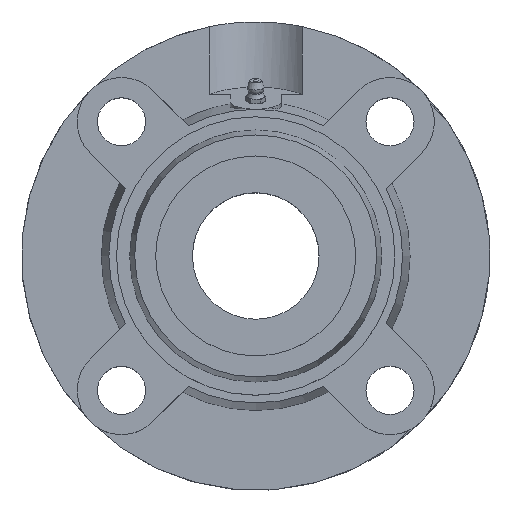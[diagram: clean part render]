
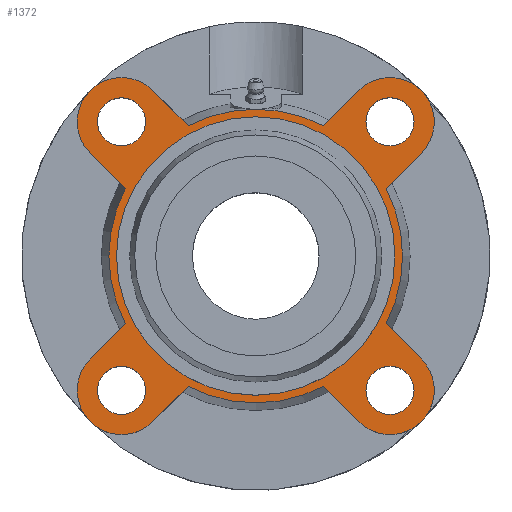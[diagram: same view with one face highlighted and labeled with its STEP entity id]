
A CAD part, top view. The second image highlights one B-rep face of the part: STEP entity #1372.
In plain terms, the highlighted planar face has unit normal (0, 0, 1).
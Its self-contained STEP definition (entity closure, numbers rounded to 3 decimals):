
#112=CARTESIAN_POINT('',(0.0,55.0,16.));
#113=VERTEX_POINT('',#112);
#114=CARTESIAN_POINT('',(0.0,0.,16.));
#115=DIRECTION('',(0.0,0.0,-1.0));
#116=DIRECTION('',(0.0,1.0,0.0));
#117=AXIS2_PLACEMENT_3D('',#114,#115,#116);
#118=CIRCLE('',#117,55.0);
#119=EDGE_CURVE('',#113,#113,#118,.T.);
#209=CARTESIAN_POINT('',(-43.533,-53.033,16.));
#210=VERTEX_POINT('',#209);
#211=CARTESIAN_POINT('',(-53.033,-53.033,16.));
#212=DIRECTION('',(0.0,0.0,-1.0));
#213=DIRECTION('',(1.0,0.0,0.0));
#214=AXIS2_PLACEMENT_3D('',#211,#212,#213);
#215=CIRCLE('',#214,9.5);
#216=EDGE_CURVE('',#210,#210,#215,.T.);
#237=CARTESIAN_POINT('',(-43.533,53.033,16.));
#238=VERTEX_POINT('',#237);
#239=CARTESIAN_POINT('',(-53.033,53.033,16.));
#240=DIRECTION('',(0.0,0.0,-1.0));
#241=DIRECTION('',(1.0,0.0,0.0));
#242=AXIS2_PLACEMENT_3D('',#239,#240,#241);
#243=CIRCLE('',#242,9.5);
#244=EDGE_CURVE('',#238,#238,#243,.T.);
#265=CARTESIAN_POINT('',(62.533,53.033,16.));
#266=VERTEX_POINT('',#265);
#267=CARTESIAN_POINT('',(53.033,53.033,16.));
#268=DIRECTION('',(0.0,0.0,-1.0));
#269=DIRECTION('',(1.0,0.0,0.0));
#270=AXIS2_PLACEMENT_3D('',#267,#268,#269);
#271=CIRCLE('',#270,9.5);
#272=EDGE_CURVE('',#266,#266,#271,.T.);
#293=CARTESIAN_POINT('',(62.533,-53.033,16.));
#294=VERTEX_POINT('',#293);
#295=CARTESIAN_POINT('',(53.033,-53.033,16.));
#296=DIRECTION('',(0.0,0.0,-1.0));
#297=DIRECTION('',(1.0,0.0,0.0));
#298=AXIS2_PLACEMENT_3D('',#295,#296,#297);
#299=CIRCLE('',#298,9.5);
#300=EDGE_CURVE('',#294,#294,#299,.T.);
#670=CARTESIAN_POINT('',(0.,58.,16.0));
#671=VERTEX_POINT('',#670);
#828=CARTESIAN_POINT('',(-26.726,51.475,16.));
#829=VERTEX_POINT('',#828);
#843=CARTESIAN_POINT('',(0.0,0.,16.));
#844=DIRECTION('',(0.0,0.0,1.0));
#845=DIRECTION('',(0.0,-1.0,0.0));
#846=AXIS2_PLACEMENT_3D('',#843,#844,#845);
#847=CIRCLE('',#846,58.);
#848=EDGE_CURVE('',#671,#829,#847,.T.);
#858=CARTESIAN_POINT('',(-26.726,-51.475,16.));
#859=VERTEX_POINT('',#858);
#875=CARTESIAN_POINT('',(-40.659,-65.407,16.));
#876=VERTEX_POINT('',#875);
#877=CARTESIAN_POINT('',(-26.726,-51.475,16.));
#878=DIRECTION('',(-0.707,-0.707,0.));
#879=VECTOR('',#878,19.703);
#880=LINE('',#877,#879);
#881=EDGE_CURVE('',#859,#876,#880,.T.);
#905=CARTESIAN_POINT('',(-51.475,26.726,16.));
#906=VERTEX_POINT('',#905);
#922=CARTESIAN_POINT('',(-65.407,40.659,16.));
#923=VERTEX_POINT('',#922);
#924=CARTESIAN_POINT('',(-51.475,26.726,16.));
#925=DIRECTION('',(-0.707,0.707,0.));
#926=VECTOR('',#925,19.703);
#927=LINE('',#924,#926);
#928=EDGE_CURVE('',#906,#923,#927,.T.);
#952=CARTESIAN_POINT('',(51.475,-26.726,16.0));
#953=VERTEX_POINT('',#952);
#969=CARTESIAN_POINT('',(65.407,-40.659,16.));
#970=VERTEX_POINT('',#969);
#971=CARTESIAN_POINT('',(51.475,-26.726,16.0));
#972=DIRECTION('',(0.707,-0.707,0.));
#973=VECTOR('',#972,19.703);
#974=LINE('',#971,#973);
#975=EDGE_CURVE('',#953,#970,#974,.T.);
#999=CARTESIAN_POINT('',(26.726,51.475,16.));
#1000=VERTEX_POINT('',#999);
#1014=CARTESIAN_POINT('',(40.659,65.407,16.));
#1015=VERTEX_POINT('',#1014);
#1016=CARTESIAN_POINT('',(26.726,51.475,16.));
#1017=DIRECTION('',(0.707,0.707,0.));
#1018=VECTOR('',#1017,19.703);
#1019=LINE('',#1016,#1018);
#1020=EDGE_CURVE('',#1000,#1015,#1019,.T.);
#1039=CARTESIAN_POINT('',(51.475,26.726,16.));
#1040=VERTEX_POINT('',#1039);
#1062=CARTESIAN_POINT('',(65.407,40.659,16.));
#1063=VERTEX_POINT('',#1062);
#1070=CARTESIAN_POINT('',(65.407,40.659,16.));
#1071=DIRECTION('',(-0.707,-0.707,0.));
#1072=VECTOR('',#1071,19.703);
#1073=LINE('',#1070,#1072);
#1074=EDGE_CURVE('',#1063,#1040,#1073,.T.);
#1084=CARTESIAN_POINT('',(-65.407,-40.659,16.));
#1085=VERTEX_POINT('',#1084);
#1086=CARTESIAN_POINT('',(-53.033,-53.033,16.));
#1087=DIRECTION('',(0.0,0.0,-1.0));
#1088=DIRECTION('',(-0.707,0.707,0.0));
#1089=AXIS2_PLACEMENT_3D('',#1086,#1087,#1088);
#1090=CIRCLE('',#1089,17.5);
#1091=EDGE_CURVE('',#876,#1085,#1090,.T.);
#1126=CARTESIAN_POINT('',(-51.475,-26.726,16.0));
#1127=VERTEX_POINT('',#1126);
#1148=CARTESIAN_POINT('',(-65.407,-40.659,16.));
#1149=DIRECTION('',(0.707,0.707,0.));
#1150=VECTOR('',#1149,19.703);
#1151=LINE('',#1148,#1150);
#1152=EDGE_CURVE('',#1085,#1127,#1151,.T.);
#1162=CARTESIAN_POINT('',(-40.659,65.407,16.));
#1163=VERTEX_POINT('',#1162);
#1164=CARTESIAN_POINT('',(-53.033,53.033,16.));
#1165=DIRECTION('',(0.0,0.0,-1.0));
#1166=DIRECTION('',(0.707,0.707,0.0));
#1167=AXIS2_PLACEMENT_3D('',#1164,#1165,#1166);
#1168=CIRCLE('',#1167,17.5);
#1169=EDGE_CURVE('',#923,#1163,#1168,.T.);
#1197=CARTESIAN_POINT('',(-40.659,65.407,16.));
#1198=DIRECTION('',(0.707,-0.707,0.));
#1199=VECTOR('',#1198,19.703);
#1200=LINE('',#1197,#1199);
#1201=EDGE_CURVE('',#1163,#829,#1200,.T.);
#1211=CARTESIAN_POINT('',(40.659,-65.407,16.));
#1212=VERTEX_POINT('',#1211);
#1213=CARTESIAN_POINT('',(53.033,-53.033,16.));
#1214=DIRECTION('',(0.0,0.0,-1.0));
#1215=DIRECTION('',(-0.707,-0.707,0.0));
#1216=AXIS2_PLACEMENT_3D('',#1213,#1214,#1215);
#1217=CIRCLE('',#1216,17.5);
#1218=EDGE_CURVE('',#970,#1212,#1217,.T.);
#1253=CARTESIAN_POINT('',(26.726,-51.475,16.));
#1254=VERTEX_POINT('',#1253);
#1275=CARTESIAN_POINT('',(40.659,-65.407,16.));
#1276=DIRECTION('',(-0.707,0.707,0.));
#1277=VECTOR('',#1276,19.703);
#1278=LINE('',#1275,#1277);
#1279=EDGE_CURVE('',#1212,#1254,#1278,.T.);
#1289=CARTESIAN_POINT('',(53.033,53.033,16.));
#1290=DIRECTION('',(0.0,0.0,-1.0));
#1291=DIRECTION('',(0.707,-0.707,0.0));
#1292=AXIS2_PLACEMENT_3D('',#1289,#1290,#1291);
#1293=CIRCLE('',#1292,17.5);
#1294=EDGE_CURVE('',#1015,#1063,#1293,.T.);
#1309=CARTESIAN_POINT('',(0.0,-29.,16.0));
#1310=DIRECTION('',(0.0,0.0,1.0));
#1311=DIRECTION('',(1.0,0.0,0.0));
#1312=AXIS2_PLACEMENT_3D('',#1309,#1310,#1311);
#1313=PLANE('',#1312);
#1314=CARTESIAN_POINT('',(0.0,0.,16.));
#1315=DIRECTION('',(0.0,0.0,1.0));
#1316=DIRECTION('',(0.0,-1.0,0.0));
#1317=AXIS2_PLACEMENT_3D('',#1314,#1315,#1316);
#1318=CIRCLE('',#1317,58.);
#1319=EDGE_CURVE('',#859,#1254,#1318,.T.);
#1320=ORIENTED_EDGE('',*,*,#1319,.T.);
#1321=ORIENTED_EDGE('',*,*,#1279,.F.);
#1322=ORIENTED_EDGE('',*,*,#1218,.F.);
#1323=ORIENTED_EDGE('',*,*,#975,.F.);
#1324=CARTESIAN_POINT('',(0.0,0.,16.));
#1325=DIRECTION('',(0.0,0.0,1.0));
#1326=DIRECTION('',(0.0,-1.0,0.0));
#1327=AXIS2_PLACEMENT_3D('',#1324,#1325,#1326);
#1328=CIRCLE('',#1327,58.);
#1329=EDGE_CURVE('',#953,#1040,#1328,.T.);
#1330=ORIENTED_EDGE('',*,*,#1329,.T.);
#1331=ORIENTED_EDGE('',*,*,#1074,.F.);
#1332=ORIENTED_EDGE('',*,*,#1294,.F.);
#1333=ORIENTED_EDGE('',*,*,#1020,.F.);
#1334=CARTESIAN_POINT('',(0.0,0.,16.));
#1335=DIRECTION('',(0.0,0.0,1.0));
#1336=DIRECTION('',(0.0,-1.0,0.0));
#1337=AXIS2_PLACEMENT_3D('',#1334,#1335,#1336);
#1338=CIRCLE('',#1337,58.);
#1339=EDGE_CURVE('',#1000,#671,#1338,.T.);
#1340=ORIENTED_EDGE('',*,*,#1339,.T.);
#1341=ORIENTED_EDGE('',*,*,#848,.T.);
#1342=ORIENTED_EDGE('',*,*,#1201,.F.);
#1343=ORIENTED_EDGE('',*,*,#1169,.F.);
#1344=ORIENTED_EDGE('',*,*,#928,.F.);
#1345=CARTESIAN_POINT('',(0.0,0.,16.));
#1346=DIRECTION('',(0.0,0.0,1.0));
#1347=DIRECTION('',(0.0,-1.0,0.0));
#1348=AXIS2_PLACEMENT_3D('',#1345,#1346,#1347);
#1349=CIRCLE('',#1348,58.);
#1350=EDGE_CURVE('',#906,#1127,#1349,.T.);
#1351=ORIENTED_EDGE('',*,*,#1350,.T.);
#1352=ORIENTED_EDGE('',*,*,#1152,.F.);
#1353=ORIENTED_EDGE('',*,*,#1091,.F.);
#1354=ORIENTED_EDGE('',*,*,#881,.F.);
#1355=EDGE_LOOP('',(#1320,#1321,#1322,#1323,#1330,#1331,#1332,#1333,#1340,#1341,#1342,#1343,#1344,#1351,#1352,#1353,#1354));
#1356=FACE_OUTER_BOUND('',#1355,.T.);
#1357=ORIENTED_EDGE('',*,*,#119,.T.);
#1358=EDGE_LOOP('',(#1357));
#1359=FACE_BOUND('',#1358,.T.);
#1360=ORIENTED_EDGE('',*,*,#216,.T.);
#1361=EDGE_LOOP('',(#1360));
#1362=FACE_BOUND('',#1361,.T.);
#1363=ORIENTED_EDGE('',*,*,#244,.T.);
#1364=EDGE_LOOP('',(#1363));
#1365=FACE_BOUND('',#1364,.T.);
#1366=ORIENTED_EDGE('',*,*,#272,.T.);
#1367=EDGE_LOOP('',(#1366));
#1368=FACE_BOUND('',#1367,.T.);
#1369=ORIENTED_EDGE('',*,*,#300,.T.);
#1370=EDGE_LOOP('',(#1369));
#1371=FACE_BOUND('',#1370,.T.);
#1372=ADVANCED_FACE('',(#1356,#1359,#1362,#1365,#1368,#1371),#1313,.T.);
